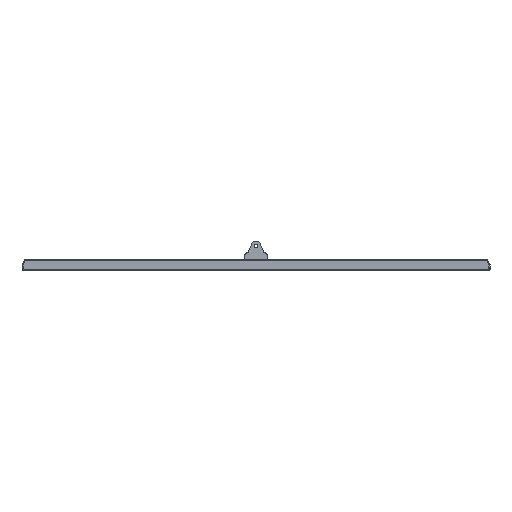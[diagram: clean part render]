
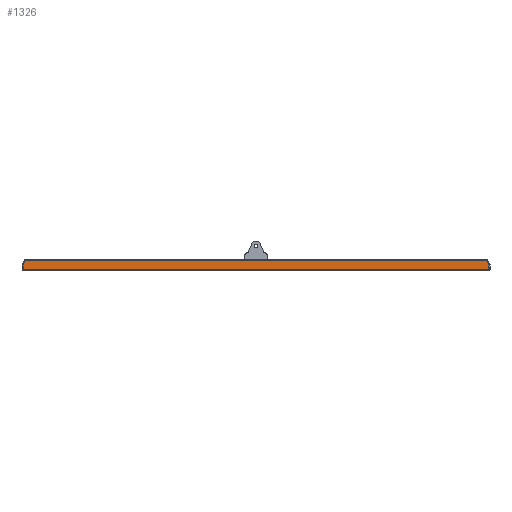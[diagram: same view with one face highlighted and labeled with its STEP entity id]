
A CAD part, front view. The second image highlights one B-rep face of the part: STEP entity #1326.
In plain terms, the highlighted planar face has unit normal (0, -1, 0).
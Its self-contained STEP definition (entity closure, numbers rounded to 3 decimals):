
#428 = VECTOR ( 'NONE', #4551, 1000. ) ;
#495 = ORIENTED_EDGE ( 'NONE', *, *, #4367, .T. ) ;
#771 = AXIS2_PLACEMENT_3D ( 'NONE', #3221, #3176, #3175 ) ;
#908 = EDGE_CURVE ( 'NONE', #4685, #9037, #1099, .T. ) ;
#915 = CARTESIAN_POINT ( 'NONE',  ( -249.187, -889., 295.506 ) ) ;
#1057 = CARTESIAN_POINT ( 'NONE',  ( 382., -889., 2. ) ) ;
#1076 = VERTEX_POINT ( 'NONE', #5842 ) ;
#1088 = LINE ( 'NONE', #915, #1367 ) ;
#1099 = LINE ( 'NONE', #7628, #1247 ) ;
#1247 = VECTOR ( 'NONE', #7651, 1000. ) ;
#1324 = CARTESIAN_POINT ( 'NONE',  ( -382., -889., 1. ) ) ;
#1326 = ADVANCED_FACE ( 'NONE', ( #4935 ), #3191, .F. ) ;
#1367 = VECTOR ( 'NONE', #1815, 1000. ) ;
#1683 = VECTOR ( 'NONE', #3096, 1000. ) ;
#1728 = CARTESIAN_POINT ( 'NONE',  ( 382., -889., 9.958 ) ) ;
#1733 = ORIENTED_EDGE ( 'NONE', *, *, #8152, .T. ) ;
#1815 = DIRECTION ( 'NONE',  ( -0.422, 0., -0.907 ) ) ;
#3069 = CARTESIAN_POINT ( 'NONE',  ( 384., -889., 2. ) ) ;
#3096 = DIRECTION ( 'NONE',  ( 1., 0., 0. ) ) ;
#3159 = VERTEX_POINT ( 'NONE', #1057 ) ;
#3175 = DIRECTION ( 'NONE',  ( 0., 0., 1. ) ) ;
#3176 = DIRECTION ( 'NONE',  ( 0., 1., 0. ) ) ;
#3191 = PLANE ( 'NONE',  #771 ) ;
#3221 = CARTESIAN_POINT ( 'NONE',  ( 384., -889., 1. ) ) ;
#3281 = VERTEX_POINT ( 'NONE', #8439 ) ;
#3663 = ORIENTED_EDGE ( 'NONE', *, *, #908, .T. ) ;
#4323 = CARTESIAN_POINT ( 'NONE',  ( 378.724, -889., 17. ) ) ;
#4367 = EDGE_CURVE ( 'NONE', #3159, #7266, #8530, .T. ) ;
#4551 = DIRECTION ( 'NONE',  ( 0., 0., -1. ) ) ;
#4603 = VECTOR ( 'NONE', #8640, 1000. ) ;
#4685 = VERTEX_POINT ( 'NONE', #4323 ) ;
#4902 = LINE ( 'NONE', #9312, #8583 ) ;
#4915 = DIRECTION ( 'NONE',  ( -0.422, 0., 0.907 ) ) ;
#4935 = FACE_OUTER_BOUND ( 'NONE', #6357, .T. ) ;
#5023 = LINE ( 'NONE', #1324, #428 ) ;
#5842 = CARTESIAN_POINT ( 'NONE',  ( -382., -889., 9.958 ) ) ;
#5881 = LINE ( 'NONE', #3069, #1683 ) ;
#6357 = EDGE_LOOP ( 'NONE', ( #495, #9880, #3663, #7911, #1733, #6462 ) ) ;
#6462 = ORIENTED_EDGE ( 'NONE', *, *, #7057, .T. ) ;
#7057 = EDGE_CURVE ( 'NONE', #3281, #3159, #5881, .T. ) ;
#7266 = VERTEX_POINT ( 'NONE', #1728 ) ;
#7628 = CARTESIAN_POINT ( 'NONE',  ( -378.724, -889., 17. ) ) ;
#7651 = DIRECTION ( 'NONE',  ( -1., 0., 0. ) ) ;
#7911 = ORIENTED_EDGE ( 'NONE', *, *, #9225, .T. ) ;
#8152 = EDGE_CURVE ( 'NONE', #1076, #3281, #5023, .T. ) ;
#8439 = CARTESIAN_POINT ( 'NONE',  ( -382., -889., 2. ) ) ;
#8479 = EDGE_CURVE ( 'NONE', #7266, #4685, #4902, .T. ) ;
#8530 = LINE ( 'NONE', #8909, #4603 ) ;
#8583 = VECTOR ( 'NONE', #4915, 1000. ) ;
#8640 = DIRECTION ( 'NONE',  ( 0., 0., 1. ) ) ;
#8909 = CARTESIAN_POINT ( 'NONE',  ( 382., -889., 1. ) ) ;
#9037 = VERTEX_POINT ( 'NONE', #9870 ) ;
#9225 = EDGE_CURVE ( 'NONE', #9037, #1076, #1088, .T. ) ;
#9312 = CARTESIAN_POINT ( 'NONE',  ( 378.724, -889., 17. ) ) ;
#9870 = CARTESIAN_POINT ( 'NONE',  ( -378.724, -889., 17. ) ) ;
#9880 = ORIENTED_EDGE ( 'NONE', *, *, #8479, .T. ) ;
